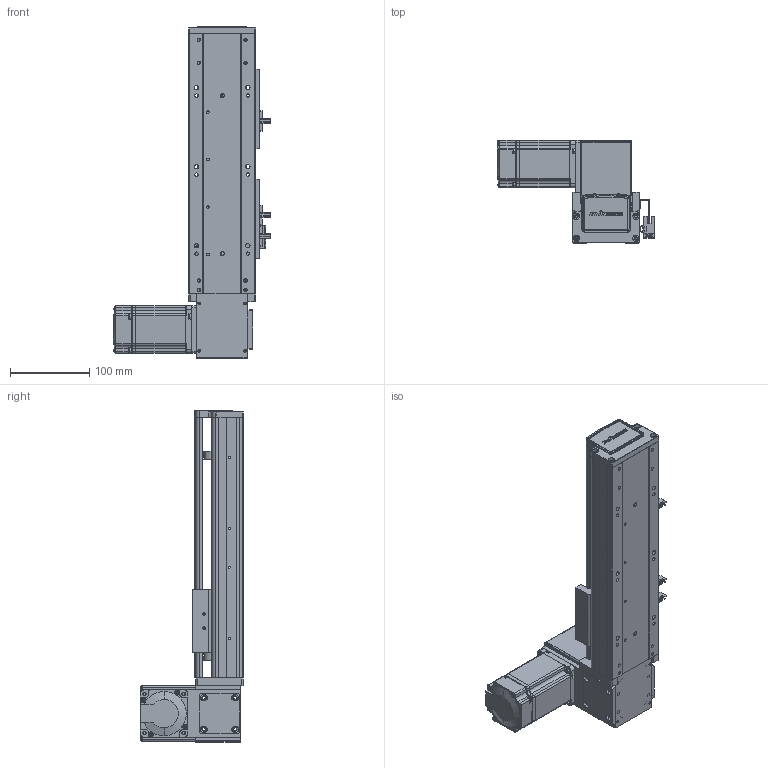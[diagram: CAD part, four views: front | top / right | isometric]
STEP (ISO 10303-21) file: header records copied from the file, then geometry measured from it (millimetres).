
FILE_DESCRIPTION (( 'STEP AP203' ), '1' );
FILE_NAME ('RY80-T-300-UL.SLDASM_150.step', '2021-03-01T02:16:05', ( '盈信电脑' ), ( '东莞市道滘镇水果街19号' ), 'SwSTEP 2.0', 'SolidWorks 2012', '' );
FILE_SCHEMA (( 'CONFIG_CONTROL_DESIGN' ));
Products named in the file (19): RY80-T-300-UL.SLDASM_150; RY80-T肮祭謫奻殏俋欶; RY80-T-上下折同步轮盖板; RY80-T-M4蹟翐2; 1; RY80-T翋肮祭謫裔啣; RY80-T粣創揤踡輸; 滅袉蝶18-10; RY80-T萇儂假蚾啣; RY80-T肮祭湍揤輸1; RY80-T肮祭湍揤輸2; 覜茼ん672; RY80-T-翋肮祭謫釱; RY80俋离覜茼え; 672嫖萇羲壽假蚾釱; RY80-T綴裔啣; RY80-T-300-UL倰第奻裔啣_150; RY80-T肮祭謫臏賑輸; RY80-T-300-UL倰第菁釱_150
Assembly tree (24 placements, depth 2):
  RY80-T-300-UL.SLDASM_150
    RY80-T-300-UL倰第菁釱_150
    RY80-T肮祭謫臏賑輸
    RY80-T-300-UL倰第奻裔啣_150
    RY80-T綴裔啣
    672嫖萇羲壽假蚾釱  x2
    覜茼ん672  x3
    RY80俋离覜茼え
    RY80-T-翋肮祭謫釱
    RY80-T肮祭湍揤輸1
    RY80-T肮祭湍揤輸2
    RY80-T萇儂假蚾啣
    RY80-T粣創揤踡輸  x2
    滅袉蝶18-10  x2
    RY80-T翋肮祭謫裔啣
    1
    RY80-T肮祭謫奻殏俋欶
    RY80-T-M4蹟翐2  x2
    RY80-T-上下折同步轮盖板
Bounding box: 198.7 x 130.5 x 420 mm (x, y, z)
Volume: 1094677.9 mm3; surface area: 421830 mm2
Topology: 24 solids, 24 shells, 2337 faces, 6378 edges, 4137 vertices
Faces by surface type: plane 1314, cylinder 822, cone 145, bspline 56
Entity records: 70979 total; most frequent: CARTESIAN_POINT 16142, ORIENTED_EDGE 11140, DIRECTION 10652, EDGE_CURVE 5570, VERTEX_POINT 3658, VECTOR 3604, LINE 3604, AXIS2_PLACEMENT_3D 3524
